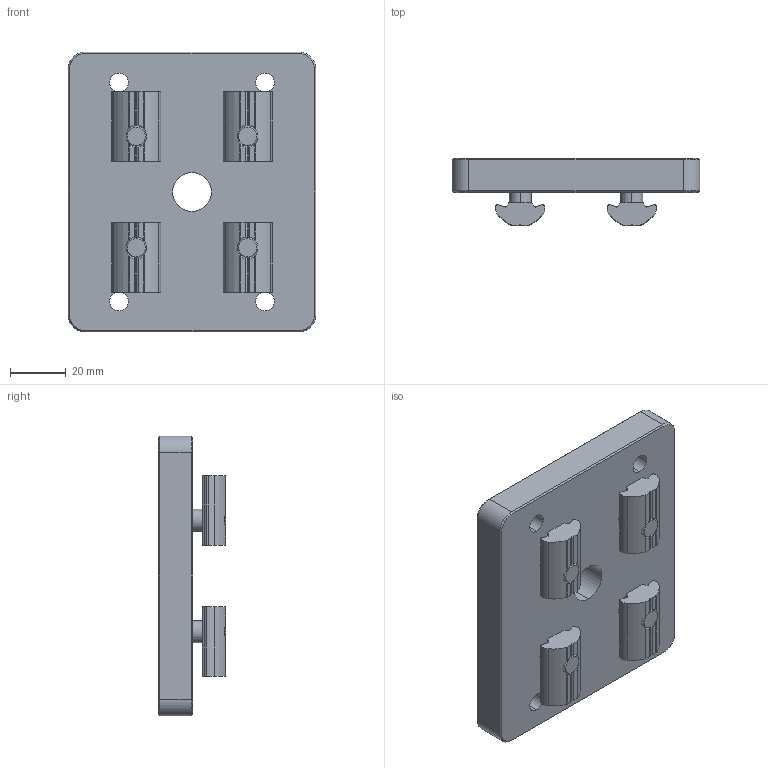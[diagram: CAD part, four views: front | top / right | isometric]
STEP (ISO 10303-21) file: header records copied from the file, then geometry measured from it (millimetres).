
FILE_DESCRIPTION (( 'STEP AP214' ), '1' );
FILE_NAME ('80x80 M16 Stem_HD Plate Caster Profile Mounting Kit C2 (40DCP-0501-003-02).STEP', '2025-06-05T20:11:51', ( '' ), ( '' ), 'SwSTEP 2.0', 'SolidWorks 2020', '' );
FILE_SCHEMA (( 'AUTOMOTIVE_DESIGN' ));
Length unit declared in the file: millimetre
Products named in the file (1): 80x80 M16 Stem_HD Plate Caster Profile Mounting Kit C2 (40DCP-0501-003-02)
Bounding box: 88.9 x 24.22 x 100.5 mm (x, y, z)
Volume: 116420.7 mm3; surface area: 34533.8 mm2
Topology: 9 solids, 9 shells, 342 faces, 862 edges, 538 vertices
Faces by surface type: cylinder 138, plane 138, cone 58, torus 8
Entity records: 14252 total; most frequent: CARTESIAN_POINT 2047, DIRECTION 1802, ORIENTED_EDGE 1708, EDGE_CURVE 854, AXIS2_PLACEMENT_3D 677, VERTEX_POINT 538, LINE 448, VECTOR 448
